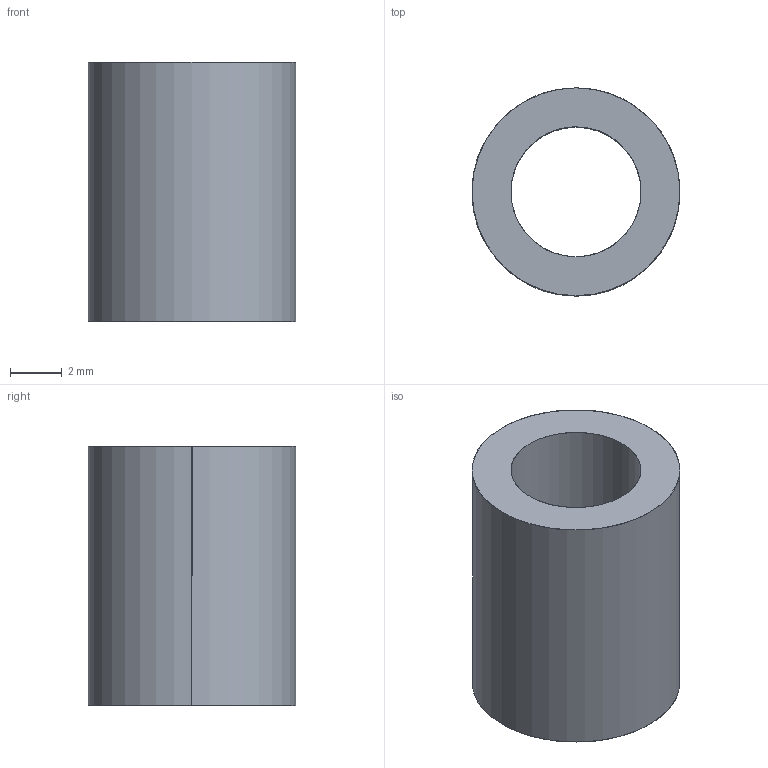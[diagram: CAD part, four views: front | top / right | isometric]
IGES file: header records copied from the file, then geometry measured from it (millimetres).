
Global section: file name: E:\UnigraphicsGraphicData\MISUMI_PRESS-PARTS\IGES\3d_sb8-10_00129_r00.igs; native system: NX V5.0; preprocessor: UGS NX IGES V5.0; author: MISUMI; date: 20110105.162424; units: millimetre
Bounding box: 8 x 8 x 10 mm (x, y, z)
Surface area: 469.9 mm2 (no closed solid volume)
Topology: 0 solids, 0 shells, 6 faces, 48 edges, 48 vertices
Faces by surface type: bspline 6
